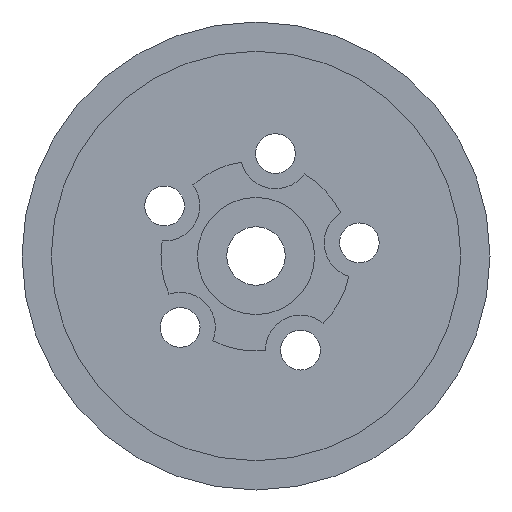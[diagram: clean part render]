
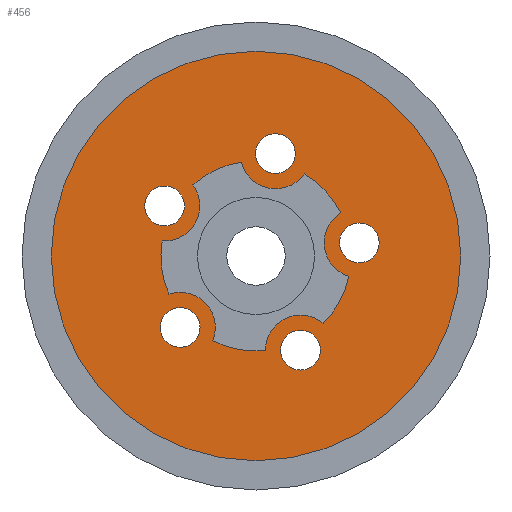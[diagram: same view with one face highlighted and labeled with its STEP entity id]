
A CAD part, front view. The second image highlights one B-rep face of the part: STEP entity #456.
In plain terms, the highlighted planar face has unit normal (0, -1, 0).
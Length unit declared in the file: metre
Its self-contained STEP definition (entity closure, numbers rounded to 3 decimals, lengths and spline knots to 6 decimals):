
#19=PLANE('',#538);
#20=CIRCLE('',#476,0.010319);
#22=CIRCLE('',#479,0.010319);
#24=CIRCLE('',#482,0.010319);
#26=CIRCLE('',#485,0.010319);
#28=CIRCLE('',#488,0.010319);
#31=CIRCLE('',#492,0.002159);
#33=CIRCLE('',#495,0.002159);
#35=CIRCLE('',#498,0.002159);
#37=CIRCLE('',#501,0.002159);
#39=CIRCLE('',#504,0.002159);
#56=CIRCLE('',#528,0.022225);
#59=CIRCLE('',#539,0.00381);
#60=CIRCLE('',#540,0.00381);
#61=CIRCLE('',#541,0.00381);
#62=CIRCLE('',#542,0.00381);
#63=CIRCLE('',#543,0.00381);
#136=ORIENTED_EDGE('',*,*,#173,.T.);
#137=ORIENTED_EDGE('',*,*,#221,.F.);
#138=ORIENTED_EDGE('',*,*,#189,.T.);
#139=ORIENTED_EDGE('',*,*,#222,.F.);
#140=ORIENTED_EDGE('',*,*,#184,.T.);
#141=ORIENTED_EDGE('',*,*,#223,.F.);
#142=ORIENTED_EDGE('',*,*,#181,.T.);
#143=ORIENTED_EDGE('',*,*,#224,.F.);
#144=ORIENTED_EDGE('',*,*,#177,.T.);
#145=ORIENTED_EDGE('',*,*,#225,.F.);
#146=ORIENTED_EDGE('',*,*,#197,.F.);
#147=ORIENTED_EDGE('',*,*,#195,.F.);
#148=ORIENTED_EDGE('',*,*,#193,.F.);
#149=ORIENTED_EDGE('',*,*,#201,.F.);
#150=ORIENTED_EDGE('',*,*,#199,.F.);
#151=ORIENTED_EDGE('',*,*,#218,.T.);
#173=EDGE_CURVE('',#228,#226,#20,.F.);
#177=EDGE_CURVE('',#232,#230,#22,.F.);
#181=EDGE_CURVE('',#236,#234,#24,.F.);
#184=EDGE_CURVE('',#238,#239,#26,.F.);
#189=EDGE_CURVE('',#244,#242,#28,.F.);
#193=EDGE_CURVE('',#247,#247,#31,.T.);
#195=EDGE_CURVE('',#249,#249,#33,.T.);
#197=EDGE_CURVE('',#251,#251,#35,.T.);
#199=EDGE_CURVE('',#253,#253,#37,.T.);
#201=EDGE_CURVE('',#255,#255,#39,.T.);
#218=EDGE_CURVE('',#267,#267,#56,.T.);
#221=EDGE_CURVE('',#244,#226,#59,.F.);
#222=EDGE_CURVE('',#238,#242,#60,.F.);
#223=EDGE_CURVE('',#236,#239,#61,.F.);
#224=EDGE_CURVE('',#232,#234,#62,.F.);
#225=EDGE_CURVE('',#228,#230,#63,.F.);
#226=VERTEX_POINT('',#712);
#228=VERTEX_POINT('',#715);
#230=VERTEX_POINT('',#721);
#232=VERTEX_POINT('',#724);
#234=VERTEX_POINT('',#730);
#236=VERTEX_POINT('',#733);
#238=VERTEX_POINT('',#739);
#239=VERTEX_POINT('',#740);
#242=VERTEX_POINT('',#748);
#244=VERTEX_POINT('',#751);
#247=VERTEX_POINT('',#759);
#249=VERTEX_POINT('',#764);
#251=VERTEX_POINT('',#769);
#253=VERTEX_POINT('',#774);
#255=VERTEX_POINT('',#779);
#267=VERTEX_POINT('',#815);
#338=EDGE_LOOP('',(#136,#137,#138,#139,#140,#141,#142,#143,#144,#145));
#339=EDGE_LOOP('',(#146));
#340=EDGE_LOOP('',(#147));
#341=EDGE_LOOP('',(#148));
#342=EDGE_LOOP('',(#149));
#343=EDGE_LOOP('',(#150));
#344=EDGE_LOOP('',(#151));
#398=FACE_BOUND('',#338,.T.);
#399=FACE_BOUND('',#339,.T.);
#400=FACE_BOUND('',#340,.T.);
#401=FACE_BOUND('',#341,.T.);
#402=FACE_BOUND('',#342,.T.);
#403=FACE_BOUND('',#343,.T.);
#404=FACE_BOUND('',#344,.T.);
#456=ADVANCED_FACE('',(#398,#399,#400,#401,#402,#403,#404),#19,.T.);
#476=AXIS2_PLACEMENT_3D('',#714,#554,#555);
#479=AXIS2_PLACEMENT_3D('',#723,#562,#563);
#482=AXIS2_PLACEMENT_3D('',#732,#570,#571);
#485=AXIS2_PLACEMENT_3D('',#738,#577,#578);
#488=AXIS2_PLACEMENT_3D('',#750,#586,#587);
#492=AXIS2_PLACEMENT_3D('',#758,#595,#596);
#495=AXIS2_PLACEMENT_3D('',#763,#601,#602);
#498=AXIS2_PLACEMENT_3D('',#768,#607,#608);
#501=AXIS2_PLACEMENT_3D('',#773,#613,#614);
#504=AXIS2_PLACEMENT_3D('',#778,#619,#620);
#528=AXIS2_PLACEMENT_3D('',#814,#667,#668);
#538=AXIS2_PLACEMENT_3D('',#827,#687,#688);
#539=AXIS2_PLACEMENT_3D('',#828,#689,#690);
#540=AXIS2_PLACEMENT_3D('',#829,#691,#692);
#541=AXIS2_PLACEMENT_3D('',#830,#693,#694);
#542=AXIS2_PLACEMENT_3D('',#831,#695,#696);
#543=AXIS2_PLACEMENT_3D('',#832,#697,#698);
#554=DIRECTION('',(0.,-1.,0.));
#555=DIRECTION('',(0.,0.,-1.));
#562=DIRECTION('',(0.,-1.,0.));
#563=DIRECTION('',(0.,0.,-1.));
#570=DIRECTION('',(0.,-1.,0.));
#571=DIRECTION('',(0.,0.,-1.));
#577=DIRECTION('',(0.,-1.,0.));
#578=DIRECTION('',(0.,0.,-1.));
#586=DIRECTION('',(0.,-1.,0.));
#587=DIRECTION('',(0.,0.,-1.));
#595=DIRECTION('',(0.,-1.,0.));
#596=DIRECTION('',(0.,0.,-1.));
#601=DIRECTION('',(0.,-1.,0.));
#602=DIRECTION('',(0.,0.,-1.));
#607=DIRECTION('',(0.,-1.,0.));
#608=DIRECTION('',(0.,0.,-1.));
#613=DIRECTION('',(0.,-1.,0.));
#614=DIRECTION('',(0.,0.,-1.));
#619=DIRECTION('',(0.,-1.,0.));
#620=DIRECTION('',(0.,0.,-1.));
#667=DIRECTION('',(0.,-1.,0.));
#668=DIRECTION('',(0.,0.,-1.));
#687=DIRECTION('',(0.,-1.,0.));
#688=DIRECTION('',(1.,0.,0.));
#689=DIRECTION('',(0.,-1.,0.));
#690=DIRECTION('',(0.,0.,-1.));
#691=DIRECTION('',(0.,-1.,0.));
#692=DIRECTION('',(0.,0.,-1.));
#693=DIRECTION('',(0.,-1.,0.));
#694=DIRECTION('',(0.,0.,-1.));
#695=DIRECTION('',(0.,-1.,0.));
#696=DIRECTION('',(0.,0.,-1.));
#697=DIRECTION('',(0.,-1.,0.));
#698=DIRECTION('',(0.,0.,-1.));
#712=CARTESIAN_POINT('',(0.007284,-0.0032,-0.037084));
#714=CARTESIAN_POINT('',(0.,-0.0032,-0.029776));
#715=CARTESIAN_POINT('',(0.01008,-0.0032,-0.031981));
#721=CARTESIAN_POINT('',(0.009202,-0.0032,-0.025106));
#723=CARTESIAN_POINT('',(0.,-0.0032,-0.029776));
#724=CARTESIAN_POINT('',(0.005212,-0.0032,-0.02087));
#730=CARTESIAN_POINT('',(-0.001597,-0.0032,-0.019581));
#732=CARTESIAN_POINT('',(0.,-0.0032,-0.029776));
#733=CARTESIAN_POINT('',(-0.006859,-0.0032,-0.022067));
#738=CARTESIAN_POINT('',(0.,-0.0032,-0.029776));
#739=CARTESIAN_POINT('',(-0.009451,-0.0032,-0.033917));
#740=CARTESIAN_POINT('',(-0.010189,-0.0032,-0.028145));
#748=CARTESIAN_POINT('',(-0.0047,-0.0032,-0.038962));
#750=CARTESIAN_POINT('',(0.,-0.0032,-0.029776));
#751=CARTESIAN_POINT('',(0.001018,-0.0032,-0.040044));
#758=CARTESIAN_POINT('',(0.002102,-0.0032,-0.01867));
#759=CARTESIAN_POINT('',(0.002102,-0.0032,-0.020829));
#763=CARTESIAN_POINT('',(0.011212,-0.0032,-0.028343));
#764=CARTESIAN_POINT('',(0.011212,-0.0032,-0.030502));
#768=CARTESIAN_POINT('',(0.004827,-0.0032,-0.039996));
#769=CARTESIAN_POINT('',(0.004827,-0.0032,-0.042155));
#773=CARTESIAN_POINT('',(-0.008228,-0.0032,-0.037525));
#774=CARTESIAN_POINT('',(-0.008228,-0.0032,-0.039684));
#778=CARTESIAN_POINT('',(-0.009913,-0.0032,-0.024345));
#779=CARTESIAN_POINT('',(-0.009913,-0.0032,-0.026504));
#814=CARTESIAN_POINT('',(0.,-0.0032,-0.029776));
#815=CARTESIAN_POINT('',(0.,-0.0032,-0.052001));
#827=CARTESIAN_POINT('',(0.,-0.0032,-0.029776));
#828=CARTESIAN_POINT('',(0.004827,-0.0032,-0.039996));
#829=CARTESIAN_POINT('',(-0.008228,-0.0032,-0.037525));
#830=CARTESIAN_POINT('',(-0.009913,-0.0032,-0.024345));
#831=CARTESIAN_POINT('',(0.002102,-0.0032,-0.01867));
#832=CARTESIAN_POINT('',(0.011212,-0.0032,-0.028343));
